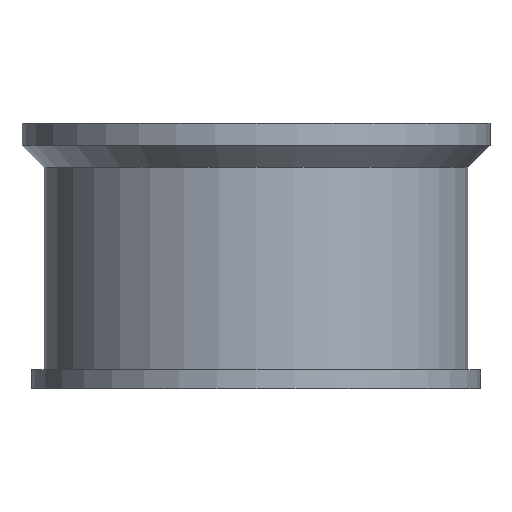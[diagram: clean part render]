
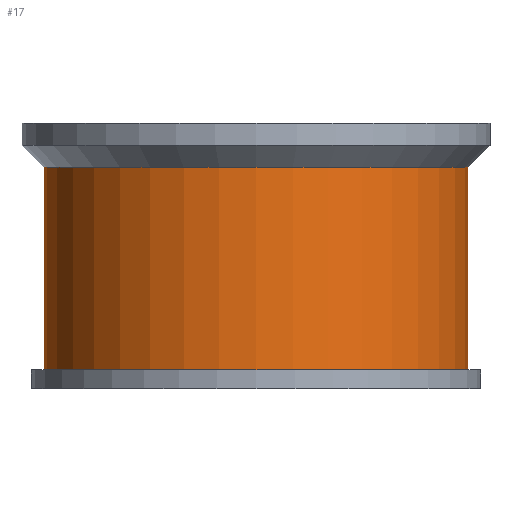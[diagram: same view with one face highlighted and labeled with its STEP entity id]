
A CAD part, front view. The second image highlights one B-rep face of the part: STEP entity #17.
In plain terms, the highlighted cylindrical face has radius 3.35 mm (diameter 6.7 mm), a full revolution.
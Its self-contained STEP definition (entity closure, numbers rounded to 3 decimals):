
#17 = ADVANCED_FACE('',(#18),#31,.T.);
#18 = FACE_BOUND('',#19,.T.);
#19 = EDGE_LOOP('',(#20,#54,#77,#104));
#20 = ORIENTED_EDGE('',*,*,#21,.T.);
#21 = EDGE_CURVE('',#22,#22,#24,.T.);
#22 = VERTEX_POINT('',#23);
#23 = CARTESIAN_POINT('',(3.35,0.,0.3));
#24 = SURFACE_CURVE('',#25,(#30,#42),.PCURVE_S1.);
#25 = CIRCLE('',#26,3.35);
#26 = AXIS2_PLACEMENT_3D('',#27,#28,#29);
#27 = CARTESIAN_POINT('',(0.,0.,0.3));
#28 = DIRECTION('',(0.,0.,1.));
#29 = DIRECTION('',(1.,0.,-0.));
#30 = PCURVE('',#31,#36);
#31 = CYLINDRICAL_SURFACE('',#32,3.35);
#32 = AXIS2_PLACEMENT_3D('',#33,#34,#35);
#33 = CARTESIAN_POINT('',(0.,0.,0.));
#34 = DIRECTION('',(0.,0.,1.));
#35 = DIRECTION('',(1.,0.,-0.));
#36 = DEFINITIONAL_REPRESENTATION('',(#37),#41);
#37 = LINE('',#38,#39);
#38 = CARTESIAN_POINT('',(0.,0.3));
#39 = VECTOR('',#40,1.);
#40 = DIRECTION('',(1.,0.));
#41 = ( GEOMETRIC_REPRESENTATION_CONTEXT(2) 
PARAMETRIC_REPRESENTATION_CONTEXT() REPRESENTATION_CONTEXT('2D SPACE',''
  ) );
#42 = PCURVE('',#43,#48);
#43 = PLANE('',#44);
#44 = AXIS2_PLACEMENT_3D('',#45,#46,#47);
#45 = CARTESIAN_POINT('',(0.,0.,0.3));
#46 = DIRECTION('',(0.,0.,1.));
#47 = DIRECTION('',(1.,0.,-0.));
#48 = DEFINITIONAL_REPRESENTATION('',(#49),#53);
#49 = CIRCLE('',#50,3.35);
#50 = AXIS2_PLACEMENT_2D('',#51,#52);
#51 = CARTESIAN_POINT('',(0.,0.));
#52 = DIRECTION('',(1.,0.));
#53 = ( GEOMETRIC_REPRESENTATION_CONTEXT(2) 
PARAMETRIC_REPRESENTATION_CONTEXT() REPRESENTATION_CONTEXT('2D SPACE',''
  ) );
#54 = ORIENTED_EDGE('',*,*,#55,.T.);
#55 = EDGE_CURVE('',#22,#56,#58,.T.);
#56 = VERTEX_POINT('',#57);
#57 = CARTESIAN_POINT('',(3.35,0.,3.5));
#58 = SEAM_CURVE('',#59,(#63,#70),.PCURVE_S1.);
#59 = LINE('',#60,#61);
#60 = CARTESIAN_POINT('',(3.35,0.,0.));
#61 = VECTOR('',#62,1.);
#62 = DIRECTION('',(0.,0.,1.));
#63 = PCURVE('',#31,#64);
#64 = DEFINITIONAL_REPRESENTATION('',(#65),#69);
#65 = LINE('',#66,#67);
#66 = CARTESIAN_POINT('',(0.,-0.));
#67 = VECTOR('',#68,1.);
#68 = DIRECTION('',(0.,1.));
#69 = ( GEOMETRIC_REPRESENTATION_CONTEXT(2) 
PARAMETRIC_REPRESENTATION_CONTEXT() REPRESENTATION_CONTEXT('2D SPACE',''
  ) );
#70 = PCURVE('',#31,#71);
#71 = DEFINITIONAL_REPRESENTATION('',(#72),#76);
#72 = LINE('',#73,#74);
#73 = CARTESIAN_POINT('',(6.283,-0.));
#74 = VECTOR('',#75,1.);
#75 = DIRECTION('',(0.,1.));
#76 = ( GEOMETRIC_REPRESENTATION_CONTEXT(2) 
PARAMETRIC_REPRESENTATION_CONTEXT() REPRESENTATION_CONTEXT('2D SPACE',''
  ) );
#77 = ORIENTED_EDGE('',*,*,#78,.F.);
#78 = EDGE_CURVE('',#56,#56,#79,.T.);
#79 = SURFACE_CURVE('',#80,(#85,#92),.PCURVE_S1.);
#80 = CIRCLE('',#81,3.35);
#81 = AXIS2_PLACEMENT_3D('',#82,#83,#84);
#82 = CARTESIAN_POINT('',(0.,0.,3.5));
#83 = DIRECTION('',(0.,0.,1.));
#84 = DIRECTION('',(1.,0.,-0.));
#85 = PCURVE('',#31,#86);
#86 = DEFINITIONAL_REPRESENTATION('',(#87),#91);
#87 = LINE('',#88,#89);
#88 = CARTESIAN_POINT('',(0.,3.5));
#89 = VECTOR('',#90,1.);
#90 = DIRECTION('',(1.,0.));
#91 = ( GEOMETRIC_REPRESENTATION_CONTEXT(2) 
PARAMETRIC_REPRESENTATION_CONTEXT() REPRESENTATION_CONTEXT('2D SPACE',''
  ) );
#92 = PCURVE('',#93,#98);
#93 = CONICAL_SURFACE('',#94,3.35,0.785);
#94 = AXIS2_PLACEMENT_3D('',#95,#96,#97);
#95 = CARTESIAN_POINT('',(0.,0.,3.5));
#96 = DIRECTION('',(0.,0.,1.));
#97 = DIRECTION('',(1.,0.,-0.));
#98 = DEFINITIONAL_REPRESENTATION('',(#99),#103);
#99 = LINE('',#100,#101);
#100 = CARTESIAN_POINT('',(0.,0.));
#101 = VECTOR('',#102,1.);
#102 = DIRECTION('',(1.,0.));
#103 = ( GEOMETRIC_REPRESENTATION_CONTEXT(2) 
PARAMETRIC_REPRESENTATION_CONTEXT() REPRESENTATION_CONTEXT('2D SPACE',''
  ) );
#104 = ORIENTED_EDGE('',*,*,#55,.F.);
